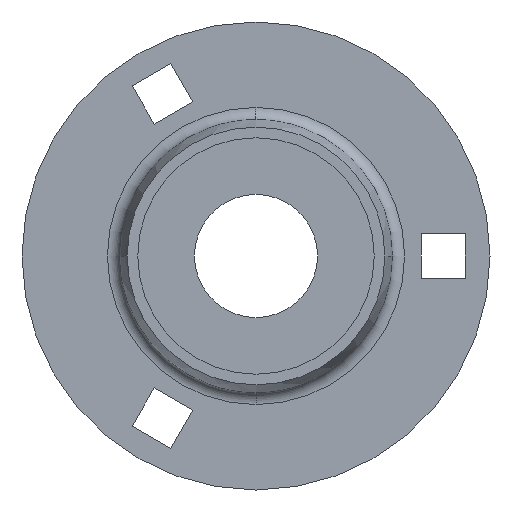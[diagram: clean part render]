
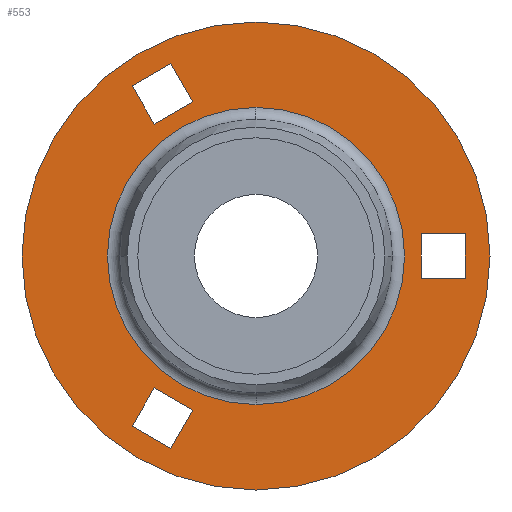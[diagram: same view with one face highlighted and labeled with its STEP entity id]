
A CAD part, left-side view. The second image highlights one B-rep face of the part: STEP entity #553.
In plain terms, the highlighted planar face has unit normal (-1, 0, 0).
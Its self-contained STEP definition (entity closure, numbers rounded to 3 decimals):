
#16 = EDGE_LOOP ( 'NONE', ( #713, #494 ) ) ;
#33 = CIRCLE ( 'NONE', #231, 47.5 ) ;
#45 = EDGE_CURVE ( 'NONE', #583, #1594, #1043, .T. ) ;
#67 = LINE ( 'NONE', #1508, #1143 ) ;
#70 = VERTEX_POINT ( 'NONE', #890 ) ;
#72 = CARTESIAN_POINT ( 'NONE',  ( -2., -42.5, 4.5 ) ) ;
#82 = CARTESIAN_POINT ( 'NONE',  ( -2., 20.647, -26.762 ) ) ;
#89 = DIRECTION ( 'NONE',  ( 1., 0., 0. ) ) ;
#91 = VERTEX_POINT ( 'NONE', #143 ) ;
#93 = VECTOR ( 'NONE', #1709, 1000. ) ;
#122 = CARTESIAN_POINT ( 'NONE',  ( -2., 0., 47.5 ) ) ;
#143 = CARTESIAN_POINT ( 'NONE',  ( -2., -33.5, -4.5 ) ) ;
#183 = EDGE_CURVE ( 'NONE', #91, #70, #67, .T. ) ;
#189 = ORIENTED_EDGE ( 'NONE', *, *, #1682, .F. ) ;
#230 = CARTESIAN_POINT ( 'NONE',  ( -2., 0., 0. ) ) ;
#231 = AXIS2_PLACEMENT_3D ( 'NONE', #865, #1465, #428 ) ;
#241 = ORIENTED_EDGE ( 'NONE', *, *, #604, .F. ) ;
#256 = LINE ( 'NONE', #290, #1492 ) ;
#257 = ORIENTED_EDGE ( 'NONE', *, *, #1035, .F. ) ;
#288 = CARTESIAN_POINT ( 'NONE',  ( -2., 0., 30.166 ) ) ;
#290 = CARTESIAN_POINT ( 'NONE',  ( -2., -42.5, -4.5 ) ) ;
#301 = FACE_BOUND ( 'NONE', #16, .T. ) ;
#303 = CIRCLE ( 'NONE', #1239, 47.5 ) ;
#311 = EDGE_CURVE ( 'NONE', #1405, #491, #1495, .T. ) ;
#342 = DIRECTION ( 'NONE',  ( 1., 0., 0. ) ) ;
#345 = LINE ( 'NONE', #72, #1034 ) ;
#378 = CARTESIAN_POINT ( 'NONE',  ( -2., 25.147, 34.556 ) ) ;
#401 = EDGE_CURVE ( 'NONE', #504, #536, #303, .T. ) ;
#421 = ORIENTED_EDGE ( 'NONE', *, *, #1871, .F. ) ;
#424 = PLANE ( 'NONE',  #1650 ) ;
#428 = DIRECTION ( 'NONE',  ( 0., 0., 1. ) ) ;
#439 = FACE_OUTER_BOUND ( 'NONE', #950, .T. ) ;
#442 = ORIENTED_EDGE ( 'NONE', *, *, #401, .T. ) ;
#461 = CARTESIAN_POINT ( 'NONE',  ( -2., 17.353, 39.056 ) ) ;
#465 = ORIENTED_EDGE ( 'NONE', *, *, #1639, .T. ) ;
#471 = CARTESIAN_POINT ( 'NONE',  ( -2., 17.353, 39.056 ) ) ;
#474 = EDGE_CURVE ( 'NONE', #603, #1563, #644, .T. ) ;
#476 = DIRECTION ( 'NONE',  ( 0., 0., -1. ) ) ;
#477 = DIRECTION ( 'NONE',  ( 0., -1., 0. ) ) ;
#491 = VERTEX_POINT ( 'NONE', #82 ) ;
#494 = ORIENTED_EDGE ( 'NONE', *, *, #1222, .T. ) ;
#504 = VERTEX_POINT ( 'NONE', #122 ) ;
#530 = DIRECTION ( 'NONE',  ( 0., -0.5, 0.866 ) ) ;
#536 = VERTEX_POINT ( 'NONE', #1157 ) ;
#547 = EDGE_CURVE ( 'NONE', #491, #583, #1277, .T. ) ;
#549 = CARTESIAN_POINT ( 'NONE',  ( -2., 47.5, 0. ) ) ;
#553 = ADVANCED_FACE ( 'NONE', ( #301, #756, #925, #1231, #439 ), #424, .F. ) ;
#568 = CARTESIAN_POINT ( 'NONE',  ( -2., 25.147, -34.556 ) ) ;
#583 = VERTEX_POINT ( 'NONE', #568 ) ;
#588 = ORIENTED_EDGE ( 'NONE', *, *, #1477, .F. ) ;
#603 = VERTEX_POINT ( 'NONE', #1918 ) ;
#604 = EDGE_CURVE ( 'NONE', #70, #1590, #256, .T. ) ;
#619 = ORIENTED_EDGE ( 'NONE', *, *, #311, .F. ) ;
#644 = CIRCLE ( 'NONE', #1070, 30.166 ) ;
#664 = EDGE_LOOP ( 'NONE', ( #1531, #1167, #619, #588 ) ) ;
#675 = CARTESIAN_POINT ( 'NONE',  ( -2., 12.853, -31.262 ) ) ;
#700 = CARTESIAN_POINT ( 'NONE',  ( -2., 25.147, -34.556 ) ) ;
#713 = ORIENTED_EDGE ( 'NONE', *, *, #474, .T. ) ;
#756 = FACE_BOUND ( 'NONE', #931, .T. ) ;
#761 = VECTOR ( 'NONE', #1001, 1000. ) ;
#777 = VECTOR ( 'NONE', #1297, 1000. ) ;
#801 = EDGE_CURVE ( 'NONE', #1590, #1077, #345, .T. ) ;
#865 = CARTESIAN_POINT ( 'NONE',  ( -2., 0., 0. ) ) ;
#883 = ORIENTED_EDGE ( 'NONE', *, *, #183, .F. ) ;
#890 = CARTESIAN_POINT ( 'NONE',  ( -2., -42.5, -4.5 ) ) ;
#910 = CARTESIAN_POINT ( 'NONE',  ( -2., 20.647, 26.762 ) ) ;
#917 = LINE ( 'NONE', #1088, #1624 ) ;
#925 = FACE_BOUND ( 'NONE', #664, .T. ) ;
#931 = EDGE_LOOP ( 'NONE', ( #421, #1797, #953, #257 ) ) ;
#940 = VECTOR ( 'NONE', #1176, 1000. ) ;
#950 = EDGE_LOOP ( 'NONE', ( #442, #465 ) ) ;
#953 = ORIENTED_EDGE ( 'NONE', *, *, #1336, .F. ) ;
#961 = DIRECTION ( 'NONE',  ( -1., 0., 0. ) ) ;
#994 = CARTESIAN_POINT ( 'NONE',  ( -2., 25.147, -34.556 ) ) ;
#1001 = DIRECTION ( 'NONE',  ( 0., -0.866, -0.5 ) ) ;
#1004 = CARTESIAN_POINT ( 'NONE',  ( -2., -42.5, 4.5 ) ) ;
#1009 = CARTESIAN_POINT ( 'NONE',  ( -2., -33.5, -4.5 ) ) ;
#1023 = CARTESIAN_POINT ( 'NONE',  ( -2., 17.353, -39.056 ) ) ;
#1034 = VECTOR ( 'NONE', #1844, 1000. ) ;
#1035 = EDGE_CURVE ( 'NONE', #1756, #1120, #1467, .T. ) ;
#1043 = LINE ( 'NONE', #700, #761 ) ;
#1052 = LINE ( 'NONE', #1204, #1442 ) ;
#1054 = VECTOR ( 'NONE', #530, 1000. ) ;
#1070 = AXIS2_PLACEMENT_3D ( 'NONE', #230, #89, #1577 ) ;
#1077 = VERTEX_POINT ( 'NONE', #1909 ) ;
#1080 = CARTESIAN_POINT ( 'NONE',  ( -2., 0., 0. ) ) ;
#1088 = CARTESIAN_POINT ( 'NONE',  ( -2., 12.853, 31.262 ) ) ;
#1111 = DIRECTION ( 'NONE',  ( 0., 0., 1. ) ) ;
#1120 = VERTEX_POINT ( 'NONE', #910 ) ;
#1132 = EDGE_CURVE ( 'NONE', #1653, #1771, #1607, .T. ) ;
#1143 = VECTOR ( 'NONE', #477, 1000. ) ;
#1157 = CARTESIAN_POINT ( 'NONE',  ( -2., 0., -47.5 ) ) ;
#1167 = ORIENTED_EDGE ( 'NONE', *, *, #547, .F. ) ;
#1176 = DIRECTION ( 'NONE',  ( 0., 0., -1. ) ) ;
#1204 = CARTESIAN_POINT ( 'NONE',  ( -2., 17.353, 39.056 ) ) ;
#1222 = EDGE_CURVE ( 'NONE', #1563, #603, #1740, .T. ) ;
#1230 = VECTOR ( 'NONE', #1356, 1000. ) ;
#1231 = FACE_BOUND ( 'NONE', #1412, .T. ) ;
#1239 = AXIS2_PLACEMENT_3D ( 'NONE', #1859, #961, #1111 ) ;
#1247 = DIRECTION ( 'NONE',  ( 0., -0.866, 0.5 ) ) ;
#1277 = LINE ( 'NONE', #994, #777 ) ;
#1297 = DIRECTION ( 'NONE',  ( 0., 0.5, -0.866 ) ) ;
#1336 = EDGE_CURVE ( 'NONE', #1120, #1653, #917, .T. ) ;
#1356 = DIRECTION ( 'NONE',  ( 0., 0.5, 0.866 ) ) ;
#1381 = DIRECTION ( 'NONE',  ( 0., 0.866, -0.5 ) ) ;
#1405 = VERTEX_POINT ( 'NONE', #675 ) ;
#1412 = EDGE_LOOP ( 'NONE', ( #241, #883, #189, #1789 ) ) ;
#1442 = VECTOR ( 'NONE', #1381, 1000. ) ;
#1464 = LINE ( 'NONE', #1732, #1054 ) ;
#1465 = DIRECTION ( 'NONE',  ( -1., 0., 0. ) ) ;
#1466 = DIRECTION ( 'NONE',  ( 0., 0., -1. ) ) ;
#1467 = LINE ( 'NONE', #1480, #1672 ) ;
#1477 = EDGE_CURVE ( 'NONE', #1594, #1405, #1464, .T. ) ;
#1480 = CARTESIAN_POINT ( 'NONE',  ( -2., 25.147, 34.556 ) ) ;
#1492 = VECTOR ( 'NONE', #1778, 1000. ) ;
#1495 = LINE ( 'NONE', #1560, #93 ) ;
#1508 = CARTESIAN_POINT ( 'NONE',  ( -2., -42.5, -4.5 ) ) ;
#1531 = ORIENTED_EDGE ( 'NONE', *, *, #45, .F. ) ;
#1533 = AXIS2_PLACEMENT_3D ( 'NONE', #1080, #342, #476 ) ;
#1560 = CARTESIAN_POINT ( 'NONE',  ( -2., 20.647, -26.762 ) ) ;
#1563 = VERTEX_POINT ( 'NONE', #288 ) ;
#1577 = DIRECTION ( 'NONE',  ( 0., 0., -1. ) ) ;
#1590 = VERTEX_POINT ( 'NONE', #1004 ) ;
#1594 = VERTEX_POINT ( 'NONE', #1023 ) ;
#1604 = CARTESIAN_POINT ( 'NONE',  ( -2., 12.853, 31.262 ) ) ;
#1607 = LINE ( 'NONE', #471, #1230 ) ;
#1623 = DIRECTION ( 'NONE',  ( 1., 0., 0. ) ) ;
#1624 = VECTOR ( 'NONE', #1247, 1000. ) ;
#1639 = EDGE_CURVE ( 'NONE', #536, #504, #33, .T. ) ;
#1650 = AXIS2_PLACEMENT_3D ( 'NONE', #549, #1623, #1466 ) ;
#1653 = VERTEX_POINT ( 'NONE', #1604 ) ;
#1672 = VECTOR ( 'NONE', #1914, 1000. ) ;
#1682 = EDGE_CURVE ( 'NONE', #1077, #91, #1877, .T. ) ;
#1709 = DIRECTION ( 'NONE',  ( 0., 0.866, 0.5 ) ) ;
#1732 = CARTESIAN_POINT ( 'NONE',  ( -2., 17.353, -39.056 ) ) ;
#1740 = CIRCLE ( 'NONE', #1533, 30.166 ) ;
#1756 = VERTEX_POINT ( 'NONE', #378 ) ;
#1771 = VERTEX_POINT ( 'NONE', #461 ) ;
#1778 = DIRECTION ( 'NONE',  ( 0., 0., 1. ) ) ;
#1789 = ORIENTED_EDGE ( 'NONE', *, *, #801, .F. ) ;
#1797 = ORIENTED_EDGE ( 'NONE', *, *, #1132, .F. ) ;
#1844 = DIRECTION ( 'NONE',  ( 0., 1., 0. ) ) ;
#1859 = CARTESIAN_POINT ( 'NONE',  ( -2., 0., 0. ) ) ;
#1871 = EDGE_CURVE ( 'NONE', #1771, #1756, #1052, .T. ) ;
#1877 = LINE ( 'NONE', #1009, #940 ) ;
#1909 = CARTESIAN_POINT ( 'NONE',  ( -2., -33.5, 4.5 ) ) ;
#1914 = DIRECTION ( 'NONE',  ( 0., -0.5, -0.866 ) ) ;
#1918 = CARTESIAN_POINT ( 'NONE',  ( -2., 0., -30.166 ) ) ;
